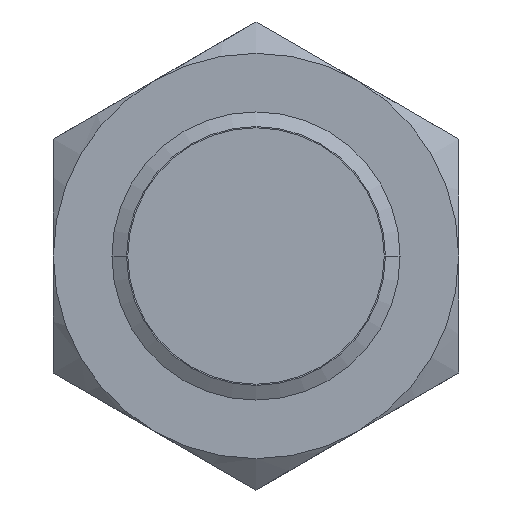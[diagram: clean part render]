
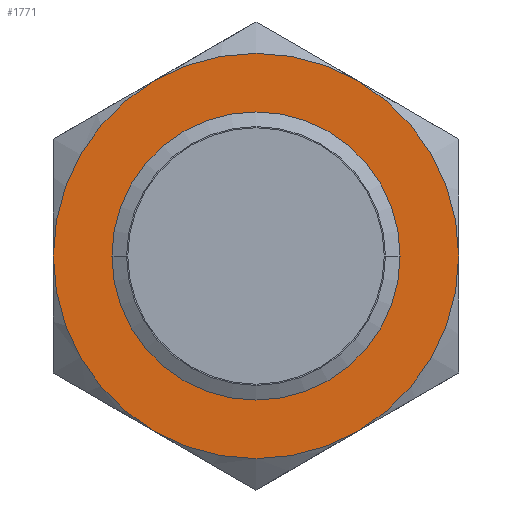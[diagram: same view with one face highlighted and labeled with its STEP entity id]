
A CAD part, left-side view. The second image highlights one B-rep face of the part: STEP entity #1771.
In plain terms, the highlighted planar face has unit normal (-1, 0, 0).
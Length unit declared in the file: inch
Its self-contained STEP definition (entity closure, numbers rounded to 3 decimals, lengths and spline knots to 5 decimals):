
#49 = EDGE_LOOP ( 'NONE', ( #14386, #8654, #7395, #6136, #4894, #11341 ) ) ;
#57 = CIRCLE ( 'NONE', #58, 0.332 ) ;
#58 = AXIS2_PLACEMENT_3D ( 'NONE', #59, #60, #61 ) ;
#59 = CARTESIAN_POINT ( 'NONE',  ( 0.72926, 0., 0. ) ) ;
#60 = DIRECTION ( 'NONE',  ( -1., 0., 0. ) ) ;
#61 = DIRECTION ( 'NONE',  ( 0., 1., 0. ) ) ;
#322 = ORIENTED_EDGE ( 'NONE', *, *, #11763, .T. ) ;
#536 = CARTESIAN_POINT ( 'NONE',  ( 0.72926, -0.332, 0. ) ) ;
#680 = CIRCLE ( 'NONE', #681, 0.332 ) ;
#681 = AXIS2_PLACEMENT_3D ( 'NONE', #682, #683, #684 ) ;
#682 = CARTESIAN_POINT ( 'NONE',  ( 0.72926, 0., 0. ) ) ;
#683 = DIRECTION ( 'NONE',  ( -1., 0., 0. ) ) ;
#684 = DIRECTION ( 'NONE',  ( 0., 1., 0. ) ) ;
#911 = ORIENTED_EDGE ( 'NONE', *, *, #2314, .T. ) ;
#1193 = CARTESIAN_POINT ( 'NONE',  ( 0.72926, -0.166, -0.28752 ) ) ;
#1354 = CIRCLE ( 'NONE', #1355, 0.332 ) ;
#1355 = AXIS2_PLACEMENT_3D ( 'NONE', #1356, #1357, #1358 ) ;
#1356 = CARTESIAN_POINT ( 'NONE',  ( 0.72926, 0., 0. ) ) ;
#1357 = DIRECTION ( 'NONE',  ( -1., 0., 0. ) ) ;
#1358 = DIRECTION ( 'NONE',  ( 0., 1., 0. ) ) ;
#1494 = EDGE_LOOP ( 'NONE', ( #911, #322 ) ) ;
#1771 = ADVANCED_FACE ( 'NONE', ( #13301, #13302 ), #13303, .T. ) ;
#1843 = CARTESIAN_POINT ( 'NONE',  ( 0.72926, 0.166, -0.28752 ) ) ;
#2012 = CIRCLE ( 'NONE', #2013, 0.332 ) ;
#2013 = AXIS2_PLACEMENT_3D ( 'NONE', #2014, #2015, #2016 ) ;
#2014 = CARTESIAN_POINT ( 'NONE',  ( 0.72926, 0., 0. ) ) ;
#2015 = DIRECTION ( 'NONE',  ( -1., 0., 0. ) ) ;
#2016 = DIRECTION ( 'NONE',  ( 0., 1., 0. ) ) ;
#2043 = VERTEX_POINT ( 'NONE', #13450 ) ;
#2314 = EDGE_CURVE ( 'NONE', #2043, #3309, #13612, .T. ) ;
#2491 = CARTESIAN_POINT ( 'NONE',  ( 0.72926, 0.332, 0. ) ) ;
#3309 = VERTEX_POINT ( 'NONE', #14141 ) ;
#4226 = VERTEX_POINT ( 'NONE', #14811 ) ;
#4471 = EDGE_CURVE ( 'NONE', #5464, #4226, #57, .T. ) ;
#4894 = ORIENTED_EDGE ( 'NONE', *, *, #4471, .T. ) ;
#5301 = CIRCLE ( 'NONE', #5302, 0.332 ) ;
#5302 = AXIS2_PLACEMENT_3D ( 'NONE', #5303, #5304, #5305 ) ;
#5303 = CARTESIAN_POINT ( 'NONE',  ( 0.72926, 0., 0. ) ) ;
#5304 = DIRECTION ( 'NONE',  ( -1., 0., 0. ) ) ;
#5305 = DIRECTION ( 'NONE',  ( 0., 1., 0. ) ) ;
#5464 = VERTEX_POINT ( 'NONE', #536 ) ;
#5723 = EDGE_CURVE ( 'NONE', #6720, #5464, #680, .T. ) ;
#6136 = ORIENTED_EDGE ( 'NONE', *, *, #5723, .T. ) ;
#6515 = CIRCLE ( 'NONE', #6516, 0.236 ) ;
#6516 = AXIS2_PLACEMENT_3D ( 'NONE', #6517, #6521, #6522 ) ;
#6517 = CARTESIAN_POINT ( 'NONE',  ( 0.72926, 0., 0. ) ) ;
#6521 = DIRECTION ( 'NONE',  ( 1., 0., 0. ) ) ;
#6522 = DIRECTION ( 'NONE',  ( 0., 0., 1. ) ) ;
#6720 = VERTEX_POINT ( 'NONE', #1193 ) ;
#6972 = EDGE_CURVE ( 'NONE', #7973, #6720, #1354, .T. ) ;
#7395 = ORIENTED_EDGE ( 'NONE', *, *, #6972, .T. ) ;
#7973 = VERTEX_POINT ( 'NONE', #1843 ) ;
#8236 = EDGE_CURVE ( 'NONE', #9188, #7973, #2012, .T. ) ;
#8597 = CARTESIAN_POINT ( 'NONE',  ( 0.72926, 0.166, 0.28752 ) ) ;
#8654 = ORIENTED_EDGE ( 'NONE', *, *, #8236, .T. ) ;
#8751 = CIRCLE ( 'NONE', #8752, 0.332 ) ;
#8752 = AXIS2_PLACEMENT_3D ( 'NONE', #8753, #8754, #8755 ) ;
#8753 = CARTESIAN_POINT ( 'NONE',  ( 0.72926, 0., 0. ) ) ;
#8754 = DIRECTION ( 'NONE',  ( -1., 0., 0. ) ) ;
#8755 = DIRECTION ( 'NONE',  ( 0., 1., 0. ) ) ;
#9188 = VERTEX_POINT ( 'NONE', #2491 ) ;
#11233 = EDGE_CURVE ( 'NONE', #4226, #13712, #5301, .T. ) ;
#11341 = ORIENTED_EDGE ( 'NONE', *, *, #11233, .T. ) ;
#11763 = EDGE_CURVE ( 'NONE', #3309, #2043, #6515, .T. ) ;
#13301 = FACE_BOUND ( 'NONE', #1494, .T. ) ;
#13302 = FACE_OUTER_BOUND ( 'NONE', #49, .T. ) ;
#13303 = PLANE ( 'NONE',  #13304 ) ;
#13304 = AXIS2_PLACEMENT_3D ( 'NONE', #13305, #13306, #13307 ) ;
#13305 = CARTESIAN_POINT ( 'NONE',  ( 0.72926, 0., 0. ) ) ;
#13306 = DIRECTION ( 'NONE',  ( -1., 0., 0. ) ) ;
#13307 = DIRECTION ( 'NONE',  ( 0., -1., 0. ) ) ;
#13450 = CARTESIAN_POINT ( 'NONE',  ( 0.72926, 0., 0.236 ) ) ;
#13612 = CIRCLE ( 'NONE', #13613, 0.236 ) ;
#13613 = AXIS2_PLACEMENT_3D ( 'NONE', #13614, #13615, #13616 ) ;
#13614 = CARTESIAN_POINT ( 'NONE',  ( 0.72926, 0., 0. ) ) ;
#13615 = DIRECTION ( 'NONE',  ( 1., 0., 0. ) ) ;
#13616 = DIRECTION ( 'NONE',  ( 0., 0., 1. ) ) ;
#13712 = VERTEX_POINT ( 'NONE', #8597 ) ;
#13959 = EDGE_CURVE ( 'NONE', #13712, #9188, #8751, .T. ) ;
#14141 = CARTESIAN_POINT ( 'NONE',  ( 0.72926, 0., -0.236 ) ) ;
#14386 = ORIENTED_EDGE ( 'NONE', *, *, #13959, .T. ) ;
#14811 = CARTESIAN_POINT ( 'NONE',  ( 0.72926, -0.166, 0.28752 ) ) ;
